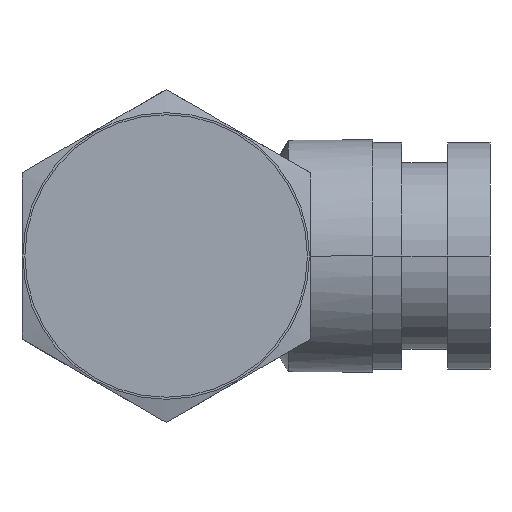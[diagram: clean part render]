
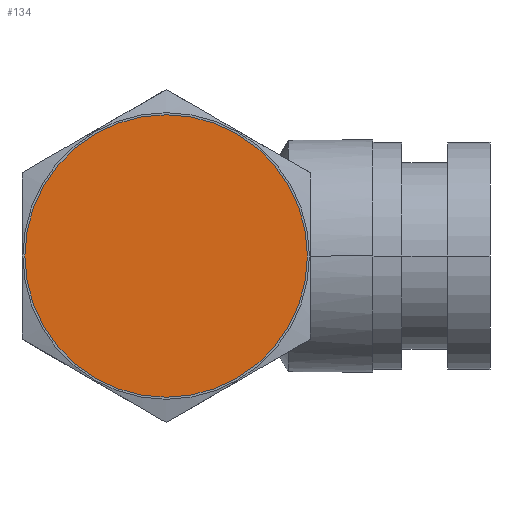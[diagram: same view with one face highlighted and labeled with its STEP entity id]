
A CAD part, front view. The second image highlights one B-rep face of the part: STEP entity #134.
In plain terms, the highlighted planar face has unit normal (0, -1, 0).
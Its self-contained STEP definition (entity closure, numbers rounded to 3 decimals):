
#134 = ADVANCED_FACE( '', ( #261 ), #262, .T. );
#261 = FACE_OUTER_BOUND( '', #388, .T. );
#262 = PLANE( '', #389 );
#388 = EDGE_LOOP( '', ( #853, #854 ) );
#389 = AXIS2_PLACEMENT_3D( '', #855, #856, #857 );
#853 = ORIENTED_EDGE( '', *, *, #861, .T. );
#854 = ORIENTED_EDGE( '', *, *, #1001, .T. );
#855 = CARTESIAN_POINT( '', ( -4.166, -5.15, 0. ) );
#856 = DIRECTION( '', ( 0., -1., 0. ) );
#857 = DIRECTION( '', ( -1., 0., 0. ) );
#861 = EDGE_CURVE( '', #1003, #1007, #1009, .T. );
#1001 = EDGE_CURVE( '', #1007, #1003, #1238, .T. );
#1003 = VERTEX_POINT( '', #1240 );
#1007 = VERTEX_POINT( '', #1245 );
#1009 = CIRCLE( '', #1248, 8.331 );
#1238 = CIRCLE( '', #1821, 8.331 );
#1240 = CARTESIAN_POINT( '', ( -8.331, -5.15, 0. ) );
#1245 = CARTESIAN_POINT( '', ( 8.331, -5.15, 0. ) );
#1248 = AXIS2_PLACEMENT_3D( '', #1827, #1828, #1829 );
#1821 = AXIS2_PLACEMENT_3D( '', #2045, #2046, #2047 );
#1827 = CARTESIAN_POINT( '', ( 0., -5.15, 0. ) );
#1828 = DIRECTION( '', ( 0., -1., 0. ) );
#1829 = DIRECTION( '', ( -1., 0., 0. ) );
#2045 = CARTESIAN_POINT( '', ( 0., -5.15, 0. ) );
#2046 = DIRECTION( '', ( 0., -1., 0. ) );
#2047 = DIRECTION( '', ( -1., 0., 0. ) );
